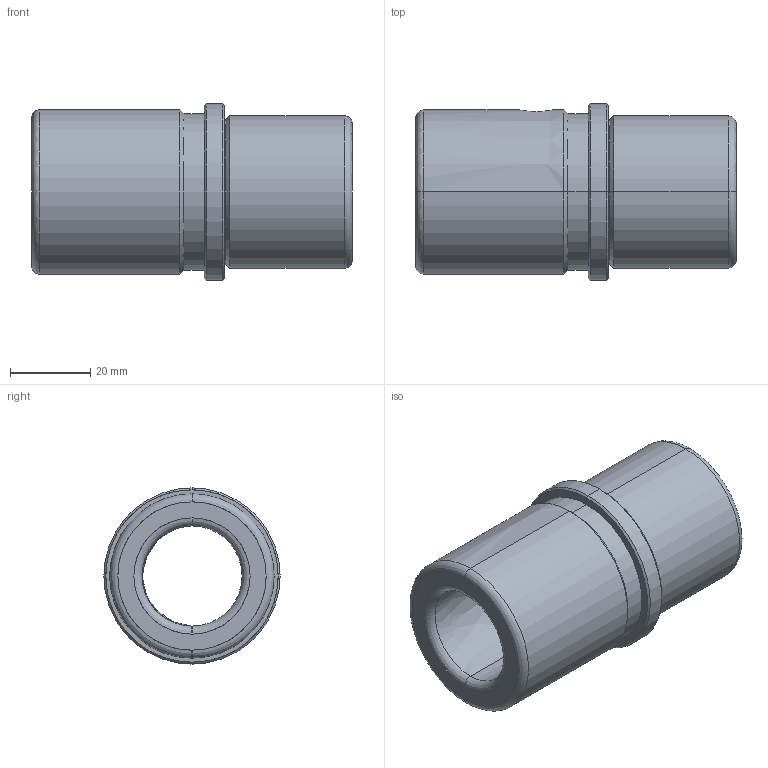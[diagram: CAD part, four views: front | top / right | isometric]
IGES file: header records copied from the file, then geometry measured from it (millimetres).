
Start section: START RECORD GO HERE.
Global section: file name: FAMO-SF1-D25 x 80.igs; native system: DASSAULT SYSTEMES CATIA V5 R20 - www.3ds.com; preprocessor: CATIA Version 5 Release 20 ; author: Utente; organization: NB04-ASUS; date: 20210106.174716; units: millimetre
Bounding box: 80 x 44 x 44 mm (x, y, z)
Surface area: 18532.6 mm2 (no closed solid volume)
Topology: 0 solids, 0 shells, 38 faces, 254 edges, 254 vertices
Faces by surface type: revolution 33, plane 5
